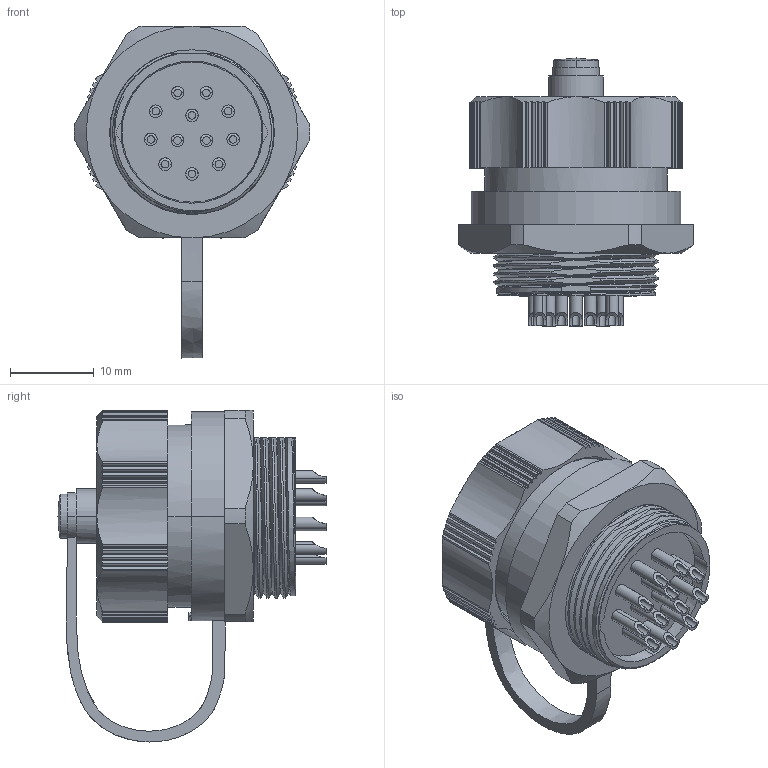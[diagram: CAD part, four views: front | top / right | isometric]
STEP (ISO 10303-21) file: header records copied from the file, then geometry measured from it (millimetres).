
FILE_DESCRIPTION((''),'2;1');
FILE_NAME('ASM0019_ASM_ASM','2019-03-22T',('Administrator'),(''),'PRO/ENGINEER BY PARAMETRIC TECHNOLOGY CORPORATION, 2015240','PRO/ENGINEER BY PARAMETRIC TECHNOLOGY CORPORATION, 2015240','');
FILE_SCHEMA(('CONFIG_CONTROL_DESIGN'));
Length unit declared in the file: millimetre
Products named in the file (15): MSBR-13; MSBR-12; MSBR-11; MSBR-10; MSBR-9; MSBR-8; MSBR-7; MSBR-6; MSBR-5; PRT0078; PRT0079; PRT0080; PRT0081; ASM0001_ASM; ASM0019_ASM_ASM
Assembly tree (14 placements, depth 3):
  ASM0019_ASM_ASM
    ASM0001_ASM
      MSBR-13
      MSBR-12
      MSBR-11
      MSBR-10
      MSBR-9
      MSBR-8
      MSBR-7
      MSBR-6
      MSBR-5
      PRT0078
      PRT0079
      PRT0080
      PRT0081
Bounding box: 28.2 x 32.05 x 39.7 mm (x, y, z)
Volume: 10332.9 mm3; surface area: 6938.9 mm2
Topology: 13 solids, 16 shells, 498 faces, 1365 edges, 910 vertices
Faces by surface type: cylinder 240, plane 203, cone 28, bspline 19, extrusion 6, sphere 2
Entity records: 24572 total; most frequent: CARTESIAN_POINT 11940, ORIENTED_EDGE 2726, DIRECTION 2441, EDGE_CURVE 1363, AXIS2_PLACEMENT_3D 930, VERTEX_POINT 910, VECTOR 581, LINE 575
